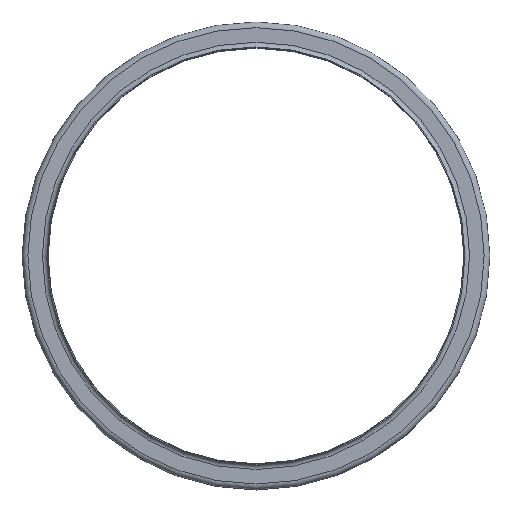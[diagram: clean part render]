
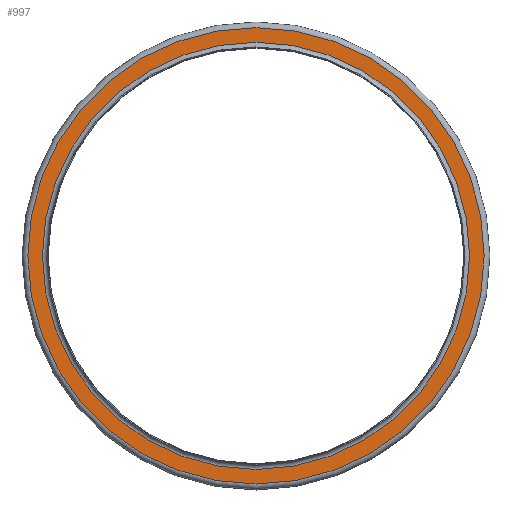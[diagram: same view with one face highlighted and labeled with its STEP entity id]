
A CAD part, top view. The second image highlights one B-rep face of the part: STEP entity #997.
In plain terms, the highlighted planar face has unit normal (0, 0, 1).
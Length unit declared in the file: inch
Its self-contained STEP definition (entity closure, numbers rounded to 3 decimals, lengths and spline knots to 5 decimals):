
#95=FACE_BOUND('',#269,.T.);
#162=FACE_OUTER_BOUND('',#268,.T.);
#268=EDGE_LOOP('',(#769));
#269=EDGE_LOOP('',(#770));
#382=CIRCLE('',#1186,10.274);
#383=CIRCLE('',#1188,10.976);
#463=VERTEX_POINT('',#1810);
#464=VERTEX_POINT('',#1814);
#568=EDGE_CURVE('',#463,#463,#382,.T.);
#569=EDGE_CURVE('',#464,#464,#383,.T.);
#769=ORIENTED_EDGE('',*,*,#569,.F.);
#770=ORIENTED_EDGE('',*,*,#568,.T.);
#851=PLANE('',#1187);
#997=ADVANCED_FACE('',(#162,#95),#851,.T.);
#1186=AXIS2_PLACEMENT_3D('',#1812,#1522,#1523);
#1187=AXIS2_PLACEMENT_3D('',#1813,#1524,#1525);
#1188=AXIS2_PLACEMENT_3D('',#1815,#1526,#1527);
#1522=DIRECTION('center_axis',(0.,0.,-1.));
#1523=DIRECTION('ref_axis',(1.,0.,0.));
#1524=DIRECTION('center_axis',(0.,0.,1.));
#1525=DIRECTION('ref_axis',(1.,0.,0.));
#1526=DIRECTION('center_axis',(0.,0.,-1.));
#1527=DIRECTION('ref_axis',(1.,0.,0.));
#1810=CARTESIAN_POINT('',(10.274,0.,-0.226));
#1812=CARTESIAN_POINT('Origin',(0.,0.,-0.226));
#1813=CARTESIAN_POINT('Origin',(0.,10.976,-0.226));
#1814=CARTESIAN_POINT('',(10.976,0.,-0.226));
#1815=CARTESIAN_POINT('Origin',(0.,0.,-0.226));
